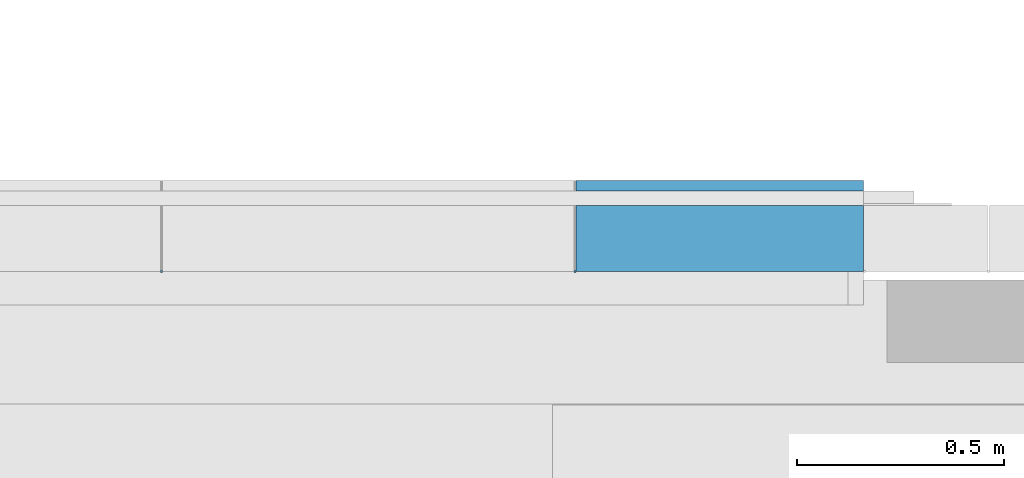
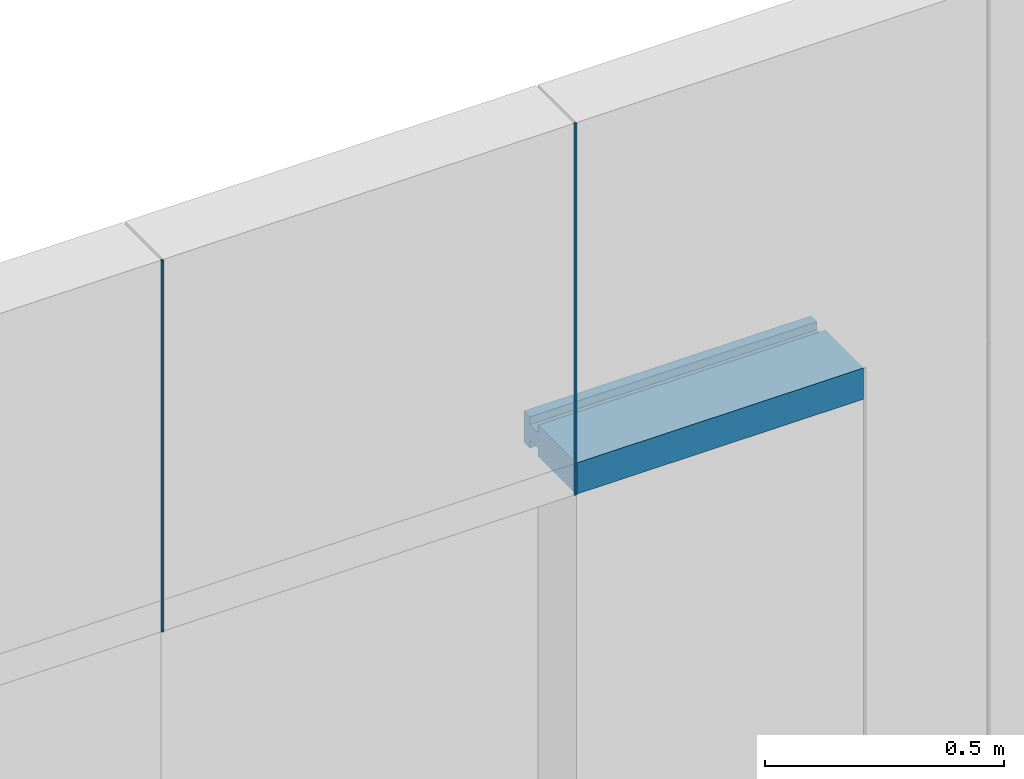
# One storey, part 197 of 302: 3 members, 1 element without a shape of its own.
"""IFC2X3 building model written with IfcOpenShell, lengths in metres."""

from ifc_helpers import new_model, entity, si_unit, converted_unit, derived_unit, direction, frame, frame_2d, origin, place, context, subcontext, project, spatial, polyline, rectangle, outline, extrude, source, transform, mapped, material, type_object, type_shapes, element, aggregate, save


model = new_model("IFC2X3")

# Units and contexts
model_context = context("Model", 3, precision=1e-05, world=origin(), true_north=direction((6.12303176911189e-17, 1.0)))
body_context = subcontext(model_context, "Body", "Model", "MODEL_VIEW")
ifc_project = project(units=[si_unit("LENGTHUNIT", "METRE"), si_unit("AREAUNIT", "SQUARE_METRE"), si_unit("VOLUMEUNIT", "CUBIC_METRE"), converted_unit("PLANEANGLEUNIT", "DEGREE", entity("IfcRatioMeasure", 0.0174532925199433), si_unit("PLANEANGLEUNIT", "RADIAN"), dimensions=[0, 0, 0, 0, 0, 0, 0]), si_unit("MASSUNIT", "GRAM", prefix="KILO"), derived_unit("MASSDENSITYUNIT", [(si_unit("MASSUNIT", "GRAM", prefix="KILO"), 1), (si_unit("LENGTHUNIT", "METRE"), -3)]), derived_unit("MOMENTOFINERTIAUNIT", [(si_unit("LENGTHUNIT", "METRE"), 4)]), si_unit("TIMEUNIT", "SECOND"), si_unit("FREQUENCYUNIT", "HERTZ"), si_unit("THERMODYNAMICTEMPERATUREUNIT", "DEGREE_CELSIUS"), derived_unit("THERMALTRANSMITTANCEUNIT", [(si_unit("MASSUNIT", "GRAM", prefix="KILO"), 1), (si_unit("THERMODYNAMICTEMPERATUREUNIT", "KELVIN"), -1), (si_unit("TIMEUNIT", "SECOND"), -3)]), derived_unit("VOLUMETRICFLOWRATEUNIT", [(si_unit("LENGTHUNIT", "METRE"), 3), (si_unit("TIMEUNIT", "SECOND"), -1)]), si_unit("ELECTRICCURRENTUNIT", "AMPERE"), si_unit("ELECTRICVOLTAGEUNIT", "VOLT"), si_unit("POWERUNIT", "WATT"), si_unit("FORCEUNIT", "NEWTON", prefix="KILO"), si_unit("ILLUMINANCEUNIT", "LUX"), si_unit("LUMINOUSFLUXUNIT", "LUMEN"), si_unit("LUMINOUSINTENSITYUNIT", "CANDELA"), derived_unit("USERDEFINED", [(si_unit("MASSUNIT", "GRAM", prefix="KILO"), -1), (si_unit("LENGTHUNIT", "METRE"), -2), (si_unit("TIMEUNIT", "SECOND"), 3), (si_unit("LUMINOUSFLUXUNIT", "LUMEN"), 1)]), derived_unit("LINEARVELOCITYUNIT", [(si_unit("LENGTHUNIT", "METRE"), 1), (si_unit("TIMEUNIT", "SECOND"), -1)]), si_unit("PRESSUREUNIT", "PASCAL"), derived_unit("USERDEFINED", [(si_unit("LENGTHUNIT", "METRE"), -2), (si_unit("MASSUNIT", "GRAM", prefix="KILO"), 1), (si_unit("TIMEUNIT", "SECOND"), -2)]), derived_unit("LINEARFORCEUNIT", [(si_unit("MASSUNIT", "GRAM", prefix="KILO"), 1), (si_unit("LENGTHUNIT", "METRE"), 1), (si_unit("TIMEUNIT", "SECOND"), -2), (si_unit("LENGTHUNIT", "METRE"), -1)]), derived_unit("PLANARFORCEUNIT", [(si_unit("MASSUNIT", "GRAM", prefix="KILO"), 1), (si_unit("LENGTHUNIT", "METRE"), 1), (si_unit("TIMEUNIT", "SECOND"), -2), (si_unit("LENGTHUNIT", "METRE"), -2)])], contexts=[model_context])

# Site, building, storey
site_placement = place(None, origin())
site = spatial("IfcSite", under=ifc_project, at=site_placement, Name="Default", CompositionType="ELEMENT")
building_placement = place(site_placement, origin())
building = spatial("IfcBuilding", under=site, at=building_placement, CompositionType="ELEMENT")
storey_placement = place(building_placement, frame((0.0, 0.0, -1.3)))
storey = spatial("IfcBuildingStorey", under=building, at=storey_placement, Name="00_EG", CompositionType="ELEMENT", Elevation=-1.3)

# Curtain wall, members
curtain_wall_type = type_object("IfcCurtainWallType", Name="Fassade:Curtain Wall 1", PredefinedType="NOTDEFINED")
curtain_wall_placement = place(storey_placement, frame((0.0, 0.0, 1.3)))
curtain_wall = element("IfcCurtainWall", 1, at=curtain_wall_placement, inside=storey, type_object=curtain_wall_type, Name="Fassade:Curtain Wall 1", ObjectType="Fassade:Curtain Wall 1")
ifc_material_1 = material(Name="Prepainted_Steel-ArcelorMittal_Construction_HAIRULTRA-35-CORAL-4309-[RAL_3000]")
member_type_1 = type_object("IfcMemberType", Name="Rectangular Mullion:Fassadenrahmen Typ 1", PredefinedType="MULLION", material=ifc_material_1)
shared_shape_1 = source(origin(), body_context, "Body", "SweptSolid", [
    extrude(outline(polyline([(-0.065, -0.04), (-0.04, -0.04), (-0.04, -0.02), (-0.00499999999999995, -0.02), (-0.00499999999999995, -0.04), (0.155, -0.04), (0.155, 0.04), (-0.00499999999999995, 0.04), (-0.00499999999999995, 0.02), (-0.04, 0.02), (-0.04, 0.04), (-0.065, 0.04), (-0.065, -0.04)])), frame((0.0, 0.155, -0.695000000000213), z_axis=(0.0, 0.0, 1.0), x_axis=(0.0, -1.0, 0.0)), (0.0, 0.0, 1.0), 0.695000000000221),
])
type_shapes(member_type_1, [shared_shape_1])
member_1_placement = place(storey_placement, frame((-220.607611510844, 45.578088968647, 10.2096475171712), z_axis=(-1.0, 0.0, 0.0), x_axis=(0.0, 0.0, 1.0)))
member_1 = element("IfcMember", 2, at=member_1_placement, type_object=member_type_1, material=ifc_material_1, Name="Rectangular Mullion:Fassadenrahmen Typ 1", ObjectType="Rectangular Mullion:Fassadenrahmen Typ 1", context=body_context, shape_type="MappedRepresentation", body=[
    mapped(shared_shape_1, transform((0.0, 0.0, 0.0), scale=1.0)),
])
ifc_material_2 = material(Name="Aluminium")
member_type_2 = type_object("IfcMemberType", Name="Rectangular Mullion:Paneele Spalt", PredefinedType="MULLION", material=ifc_material_2)
shared_shape_2 = source(origin(), body_context, "Body", "SweptSolid", [
    extrude(rectangle(XDim=0.005, YDim=0.005, at=frame_2d((0.0, -6.50521303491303e-19), x_axis=(1.0, 0.0))), frame((0.0, 0.0, -0.951252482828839), z_axis=(0.0, 0.0, 1.0), x_axis=(0.0, -1.0, 0.0)), (0.0, 0.0, 1.0), 0.951252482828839),
])
type_shapes(member_type_2, [shared_shape_2])
member_2_placement = place(storey_placement, frame((-220.610111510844, 45.578088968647, 10.1696475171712), z_axis=(0.0, 0.0, -1.0), x_axis=(-1.0, 0.0, 0.0)))
member_2 = element("IfcMember", 3, at=member_2_placement, type_object=member_type_2, material=ifc_material_2, Name="Rectangular Mullion:Paneele Spalt", ObjectType="Rectangular Mullion:Paneele Spalt", context=body_context, shape_type="MappedRepresentation", body=[
    mapped(shared_shape_2, transform((0.0, 0.0, 0.0), scale=1.0)),
])
member_3_placement = place(storey_placement, frame((-221.610111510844, 45.578088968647, 10.1696475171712), z_axis=(0.0, 0.0, -1.0), x_axis=(-1.0, 0.0, 0.0)))
member_3 = element("IfcMember", 4, at=member_3_placement, type_object=member_type_2, material=ifc_material_2, Name="Rectangular Mullion:Paneele Spalt", ObjectType="Rectangular Mullion:Paneele Spalt", context=body_context, shape_type="MappedRepresentation", body=[
    mapped(shared_shape_2, transform((0.0, 0.0, 0.0), scale=1.0)),
])
aggregate(curtain_wall, [member_1, member_2, member_3])

save(model, "model.ifc")
